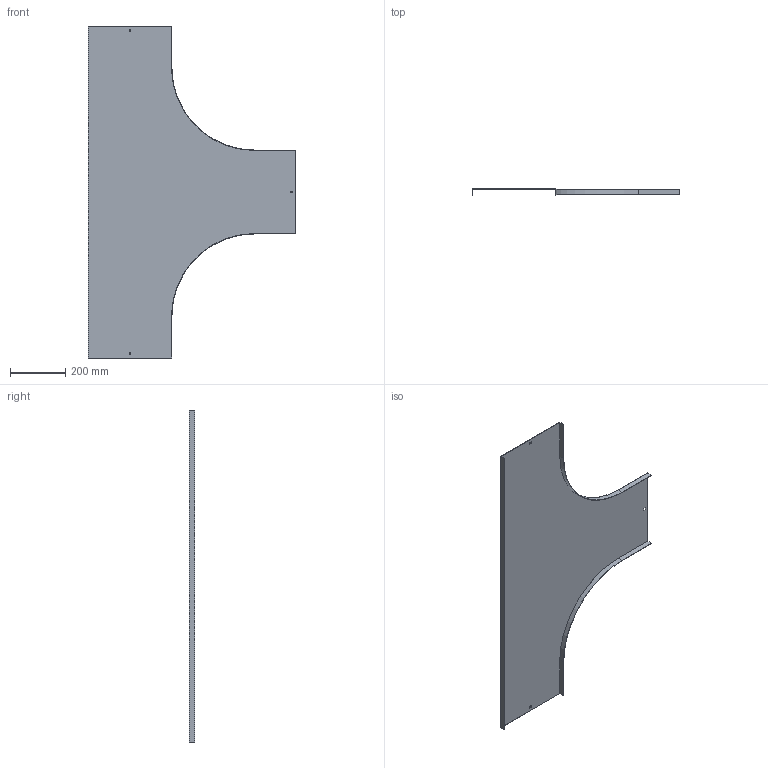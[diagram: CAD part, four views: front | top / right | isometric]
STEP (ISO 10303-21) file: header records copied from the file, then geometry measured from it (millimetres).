
FILE_DESCRIPTION (( 'STEP AP214' ), '1' );
FILE_NAME ('A2_15N3R300.step', '2025-02-21T12:06:31', ( '' ), ( '' ), 'SwSTEP 2.0', 'SolidWorks 2023', '' );
FILE_SCHEMA (( 'AUTOMOTIVE_DESIGN' ));
Length unit declared in the file: millimetre
Products named in the file (1): A2_15N3R300
Bounding box: 751.5 x 20 x 1200 mm (x, y, z)
Volume: 882382.9 mm3; surface area: 1182286.7 mm2
Topology: 1 solids, 1 shells, 34 faces, 96 edges, 64 vertices
Faces by surface type: plane 30, cylinder 4
Entity records: 1123 total; most frequent: CARTESIAN_POINT 195, ORIENTED_EDGE 192, DIRECTION 174, EDGE_CURVE 96, LINE 88, VECTOR 88, VERTEX_POINT 64, AXIS2_PLACEMENT_3D 43
